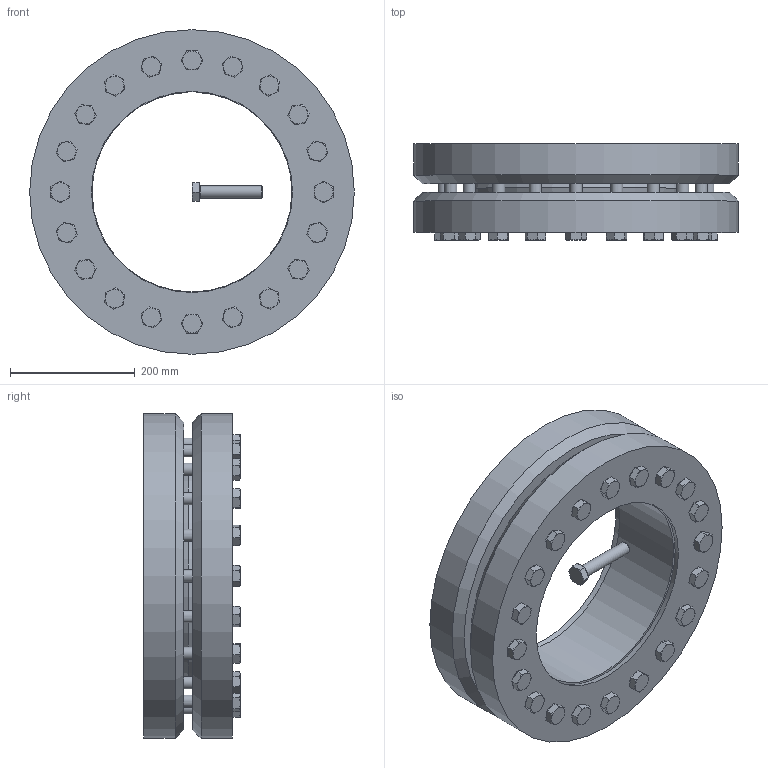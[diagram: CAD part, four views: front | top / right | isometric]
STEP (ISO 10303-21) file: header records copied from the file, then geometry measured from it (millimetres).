
FILE_DESCRIPTION( ( 'Unknown' ), '1' );
FILE_NAME( 'C:/Dokumente und Einstellungen/Sven/Desktop/homepage/cad - homepage/KBS19/KBS 19 - 320 x 520.stp', 'Unknown', ( 'Unknown' ), ( 'Unknown' ), 'XStep 1.0', 'Unknown', ' ' );
FILE_SCHEMA( ( 'automotive_design' ) );
Length unit declared in the file: millimetre
Products named in the file (3): Assem1; KBS 19 - 320 x 520; ISO 4017 - M20 x 100-N
Bounding box: 520 x 154.5 x 520 mm (x, y, z)
Volume: 32819637.5 mm3; surface area: 2139594.6 mm2
Topology: 23 solids, 23 shells, 651 faces, 1522 edges, 938 vertices
Faces by surface type: plane 343, cone 159, cylinder 128, torus 21
Full cylindrical faces by diameter (mm): 20 x101, 30 x21, 520 x4
Entity records: 3312 total; most frequent: CARTESIAN_POINT 497, DIRECTION 494, ORIENTED_EDGE 348, AXIS2_PLACEMENT_3D 226, EDGE_LOOP 223, EDGE_CURVE 174, VERTEX_POINT 141, FACE_OUTER_BOUND 133
